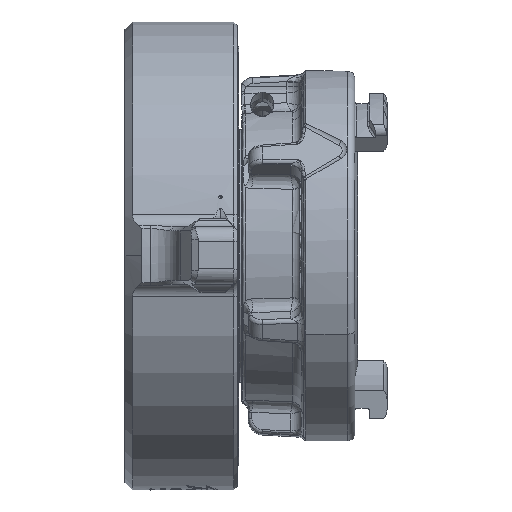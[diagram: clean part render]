
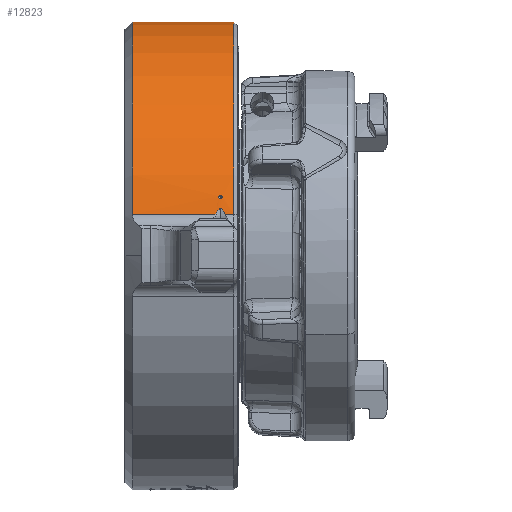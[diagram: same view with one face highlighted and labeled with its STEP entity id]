
A CAD part, top view. The second image highlights one B-rep face of the part: STEP entity #12823.
In plain terms, the highlighted cylindrical face has radius 98.425 mm (diameter 196.85 mm), a partial arc.
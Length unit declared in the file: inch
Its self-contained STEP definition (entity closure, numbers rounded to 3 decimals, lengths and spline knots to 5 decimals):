
#1116 = ORIENTED_EDGE ( 'NONE', *, *, #7501, .F. ) ;
#1117 = ORIENTED_EDGE ( 'NONE', *, *, #7504, .T. ) ;
#1118 = ORIENTED_EDGE ( 'NONE', *, *, #1651, .F. ) ;
#1119 = ORIENTED_EDGE ( 'NONE', *, *, #7506, .T. ) ;
#1120 = ORIENTED_EDGE ( 'NONE', *, *, #7508, .T. ) ;
#1121 = ORIENTED_EDGE ( 'NONE', *, *, #7511, .F. ) ;
#1122 = ORIENTED_EDGE ( 'NONE', *, *, #1656, .F. ) ;
#1123 = ORIENTED_EDGE ( 'NONE', *, *, #6803, .T. ) ;
#1124 = ORIENTED_EDGE ( 'NONE', *, *, #7512, .F. ) ;
#1125 = ORIENTED_EDGE ( 'NONE', *, *, #1652, .F. ) ;
#1651 = EDGE_CURVE ( 'NONE', #13472, #13471, #34920, .T. ) ;
#1652 = EDGE_CURVE ( 'NONE', #13470, #13467, #34921, .T. ) ;
#1656 = EDGE_CURVE ( 'NONE', #13099, #13473, #37184, .T. ) ;
#6113 = EDGE_LOOP ( 'NONE', ( #1116, #1117, #1118 ) ) ;
#6116 = EDGE_LOOP ( 'NONE', ( #1119, #1120, #1121, #1122, #1123, #1124, #1125 ) ) ;
#6803 = EDGE_CURVE ( 'NONE', #13099, #12883, #28941, .T. ) ;
#7501 = EDGE_CURVE ( 'NONE', #13331, #13472, #53212, .T. ) ;
#7504 = EDGE_CURVE ( 'NONE', #13331, #13471, #29216, .T. ) ;
#7506 = EDGE_CURVE ( 'NONE', #13470, #12541, #29220, .T. ) ;
#7508 = EDGE_CURVE ( 'NONE', #12541, #13323, #29221, .T. ) ;
#7511 = EDGE_CURVE ( 'NONE', #13473, #13323, #29223, .T. ) ;
#7512 = EDGE_CURVE ( 'NONE', #13467, #12883, #53215, .T. ) ;
#12541 = VERTEX_POINT ( 'NONE', #19680 ) ;
#12823 = ADVANCED_FACE ( 'NONE', ( #29365, #29370 ), #29372, .T. ) ;
#12883 = VERTEX_POINT ( 'NONE', #20174 ) ;
#13099 = VERTEX_POINT ( 'NONE', #20316 ) ;
#13323 = VERTEX_POINT ( 'NONE', #20440 ) ;
#13331 = VERTEX_POINT ( 'NONE', #20448 ) ;
#13467 = VERTEX_POINT ( 'NONE', #20584 ) ;
#13470 = VERTEX_POINT ( 'NONE', #20587 ) ;
#13471 = VERTEX_POINT ( 'NONE', #20588 ) ;
#13472 = VERTEX_POINT ( 'NONE', #20589 ) ;
#13473 = VERTEX_POINT ( 'NONE', #20590 ) ;
#19680 = CARTESIAN_POINT ( 'NONE',  ( 1.8005, 0.68106, 3.81468 ) ) ;
#20158 = DIRECTION ( 'NONE',  ( 0., 0., -1. ) ) ;
#20163 = DIRECTION ( 'NONE',  ( 1., 0., 0. ) ) ;
#20166 = CARTESIAN_POINT ( 'NONE',  ( -0.05, 0., 0. ) ) ;
#20174 = CARTESIAN_POINT ( 'NONE',  ( 1.50767, 0.68106, 3.81468 ) ) ;
#20316 = CARTESIAN_POINT ( 'NONE',  ( 0.125, 0.68106, 3.81468 ) ) ;
#20440 = CARTESIAN_POINT ( 'NONE',  ( 1.8005, 0.68106, -3.81468 ) ) ;
#20448 = CARTESIAN_POINT ( 'NONE',  ( 1.54727, 0.98602, 3.74745 ) ) ;
#20584 = CARTESIAN_POINT ( 'NONE',  ( 1.583, 0.78607, 3.79443 ) ) ;
#20587 = CARTESIAN_POINT ( 'NONE',  ( 1.65833, 0.68106, 3.81468 ) ) ;
#20588 = CARTESIAN_POINT ( 'NONE',  ( 1.61873, 0.98602, 3.74745 ) ) ;
#20589 = CARTESIAN_POINT ( 'NONE',  ( 1.583, 0.93955, 3.75937 ) ) ;
#20590 = CARTESIAN_POINT ( 'NONE',  ( 0.125, 0.68106, -3.81468 ) ) ;
#24759 = CARTESIAN_POINT ( 'NONE',  ( 1.54727, 0.98602, 3.74745 ) ) ;
#24763 = CARTESIAN_POINT ( 'NONE',  ( -0.05, 0.68106, 3.81468 ) ) ;
#24767 = CARTESIAN_POINT ( 'NONE',  ( 1.55075, 0.9765, 3.74996 ) ) ;
#24768 = DIRECTION ( 'NONE',  ( 1., 0., 0. ) ) ;
#24772 = CARTESIAN_POINT ( 'NONE',  ( -0.05, 0.98602, 3.74745 ) ) ;
#24773 = CARTESIAN_POINT ( 'NONE',  ( 1.5548, 0.96722, 3.75236 ) ) ;
#24774 = CARTESIAN_POINT ( 'NONE',  ( 1.56281, 0.95415, 3.7557 ) ) ;
#24775 = CARTESIAN_POINT ( 'NONE',  ( 1.56579, 0.94993, 3.75676 ) ) ;
#24776 = CARTESIAN_POINT ( 'NONE',  ( 1.57125, 0.94454, 3.75812 ) ) ;
#24777 = CARTESIAN_POINT ( 'NONE',  ( 1.57327, 0.94287, 3.75854 ) ) ;
#24778 = CARTESIAN_POINT ( 'NONE',  ( 1.57782, 0.94036, 3.75917 ) ) ;
#24779 = CARTESIAN_POINT ( 'NONE',  ( 1.58038, 0.93955, 3.75937 ) ) ;
#24780 = CARTESIAN_POINT ( 'NONE',  ( 1.583, 0.93955, 3.75937 ) ) ;
#24781 = CARTESIAN_POINT ( 'NONE',  ( -0.05, 0.68106, -3.81468 ) ) ;
#24782 = DIRECTION ( 'NONE',  ( 1., 0., 0. ) ) ;
#24783 = DIRECTION ( 'NONE',  ( 1., 0., 0. ) ) ;
#24784 = CARTESIAN_POINT ( 'NONE',  ( 1.583, 0.78607, 3.79443 ) ) ;
#24785 = CARTESIAN_POINT ( 'NONE',  ( 1.58016, 0.78607, 3.79443 ) ) ;
#24786 = CARTESIAN_POINT ( 'NONE',  ( 1.8005, 0., 0. ) ) ;
#24787 = DIRECTION ( 'NONE',  ( -1., 0., 0. ) ) ;
#24788 = DIRECTION ( 'NONE',  ( 0., 0., 1. ) ) ;
#24791 = CARTESIAN_POINT ( 'NONE',  ( 1.57733, 0.78537, 3.79458 ) ) ;
#24792 = CARTESIAN_POINT ( 'NONE',  ( 1.57218, 0.78309, 3.79505 ) ) ;
#24793 = CARTESIAN_POINT ( 'NONE',  ( 1.56978, 0.78152, 3.79537 ) ) ;
#24794 = CARTESIAN_POINT ( 'NONE',  ( 1.56318, 0.77631, 3.79644 ) ) ;
#24795 = CARTESIAN_POINT ( 'NONE',  ( 1.55943, 0.77218, 3.79729 ) ) ;
#24796 = CARTESIAN_POINT ( 'NONE',  ( 1.54889, 0.75915, 3.79992 ) ) ;
#24797 = CARTESIAN_POINT ( 'NONE',  ( 1.54302, 0.74981, 3.80178 ) ) ;
#24798 = CARTESIAN_POINT ( 'NONE',  ( 1.52634, 0.72123, 3.80734 ) ) ;
#24799 = CARTESIAN_POINT ( 'NONE',  ( 1.51669, 0.70129, 3.81107 ) ) ;
#24800 = CARTESIAN_POINT ( 'NONE',  ( 1.50767, 0.68106, 3.81468 ) ) ;
#28941 = LINE ( 'NONE', #30434, #28942 ) ;
#28942 = VECTOR ( 'NONE', #30454, 39.37008 ) ;
#29216 = LINE ( 'NONE', #24772, #29219 ) ;
#29219 = VECTOR ( 'NONE', #24782, 39.37008 ) ;
#29220 = LINE ( 'NONE', #24763, #29222 ) ;
#29221 = CIRCLE ( 'NONE', #31628, 3.875 ) ;
#29222 = VECTOR ( 'NONE', #24783, 39.37008 ) ;
#29223 = LINE ( 'NONE', #24781, #29225 ) ;
#29225 = VECTOR ( 'NONE', #24768, 39.37008 ) ;
#29365 = FACE_BOUND ( 'NONE', #6113, .T. ) ;
#29370 = FACE_OUTER_BOUND ( 'NONE', #6116, .T. ) ;
#29372 = CYLINDRICAL_SURFACE ( 'NONE', #31714, 3.875 ) ;
#30434 = CARTESIAN_POINT ( 'NONE',  ( -0.05, 0.68106, 3.81468 ) ) ;
#30454 = DIRECTION ( 'NONE',  ( 1., 0., 0. ) ) ;
#31349 = AXIS2_PLACEMENT_3D ( 'NONE', #32221, #32222, #32223 ) ;
#31628 = AXIS2_PLACEMENT_3D ( 'NONE', #24786, #24787, #24788 ) ;
#31714 = AXIS2_PLACEMENT_3D ( 'NONE', #20166, #20163, #20158 ) ;
#32165 = CARTESIAN_POINT ( 'NONE',  ( 1.64933, 0.70125, 3.81108 ) ) ;
#32177 = CARTESIAN_POINT ( 'NONE',  ( 1.58823, 0.94038, 3.75916 ) ) ;
#32190 = CARTESIAN_POINT ( 'NONE',  ( 1.58563, 0.93955, 3.75937 ) ) ;
#32191 = CARTESIAN_POINT ( 'NONE',  ( 1.583, 0.93955, 3.75937 ) ) ;
#32192 = CARTESIAN_POINT ( 'NONE',  ( 1.59277, 0.9429, 3.75853 ) ) ;
#32193 = CARTESIAN_POINT ( 'NONE',  ( 1.5948, 0.94458, 3.75811 ) ) ;
#32194 = CARTESIAN_POINT ( 'NONE',  ( 1.60028, 0.95001, 3.75674 ) ) ;
#32195 = CARTESIAN_POINT ( 'NONE',  ( 1.60325, 0.95424, 3.75567 ) ) ;
#32196 = CARTESIAN_POINT ( 'NONE',  ( 1.61121, 0.96726, 3.75235 ) ) ;
#32197 = CARTESIAN_POINT ( 'NONE',  ( 1.61526, 0.97651, 3.74995 ) ) ;
#32198 = CARTESIAN_POINT ( 'NONE',  ( 1.61873, 0.98602, 3.74745 ) ) ;
#32200 = CARTESIAN_POINT ( 'NONE',  ( 1.65833, 0.68106, 3.81468 ) ) ;
#32201 = CARTESIAN_POINT ( 'NONE',  ( 1.63974, 0.72106, 3.80737 ) ) ;
#32202 = CARTESIAN_POINT ( 'NONE',  ( 1.62317, 0.74951, 3.80184 ) ) ;
#32203 = CARTESIAN_POINT ( 'NONE',  ( 1.61733, 0.75881, 3.79999 ) ) ;
#32204 = CARTESIAN_POINT ( 'NONE',  ( 1.6069, 0.7718, 3.79736 ) ) ;
#32205 = CARTESIAN_POINT ( 'NONE',  ( 1.60307, 0.77607, 3.79649 ) ) ;
#32206 = CARTESIAN_POINT ( 'NONE',  ( 1.59642, 0.78138, 3.7954 ) ) ;
#32207 = CARTESIAN_POINT ( 'NONE',  ( 1.59406, 0.78296, 3.79508 ) ) ;
#32208 = CARTESIAN_POINT ( 'NONE',  ( 1.58877, 0.78535, 3.79458 ) ) ;
#32209 = CARTESIAN_POINT ( 'NONE',  ( 1.58589, 0.78607, 3.79443 ) ) ;
#32210 = CARTESIAN_POINT ( 'NONE',  ( 1.583, 0.78607, 3.79443 ) ) ;
#32221 = CARTESIAN_POINT ( 'NONE',  ( 0.125, 0., 0. ) ) ;
#32222 = DIRECTION ( 'NONE',  ( -1., 0., 0. ) ) ;
#32223 = DIRECTION ( 'NONE',  ( 0., 0., -1. ) ) ;
#34920 = B_SPLINE_CURVE_WITH_KNOTS ( 'NONE', 3,
 ( #32191, #32190, #32177, #32192, #32193, #32194, #32195, #32196, #32197, #32198 ),
 .UNSPECIFIED., .F., .F.,
 ( 4, 2, 2, 2, 4 ),
 ( 0.00159, 0.00178, 0.00198, 0.00238, 0.00318 ),
 .UNSPECIFIED. ) ;
#34921 = B_SPLINE_CURVE_WITH_KNOTS ( 'NONE', 3,
 ( #32200, #32165, #32201, #32202, #32203, #32204, #32205, #32206, #32207, #32208, #32209, #32210 ),
 .UNSPECIFIED., .F., .F.,
 ( 4, 2, 2, 2, 2, 4 ),
 ( 0., 0.0017, 0.00254, 0.00297, 0.00318, 0.00339 ),
 .UNSPECIFIED. ) ;
#37184 = CIRCLE ( 'NONE', #31349, 3.875 ) ;
#53212 = B_SPLINE_CURVE_WITH_KNOTS ( 'NONE', 3,
 ( #24759, #24767, #24773, #24774, #24775, #24776, #24777, #24778, #24779, #24780 ),
 .UNSPECIFIED., .F., .F.,
 ( 4, 2, 2, 2, 4 ),
 ( 0., 0.00079, 0.00119, 0.00139, 0.00159 ),
 .UNSPECIFIED. ) ;
#53215 = B_SPLINE_CURVE_WITH_KNOTS ( 'NONE', 3,
 ( #24784, #24785, #24791, #24792, #24793, #24794, #24795, #24796, #24797, #24798, #24799, #24800 ),
 .UNSPECIFIED., .F., .F.,
 ( 4, 2, 2, 2, 2, 4 ),
 ( 0.00339, 0.0036, 0.00381, 0.00422, 0.00506, 0.00672 ),
 .UNSPECIFIED. ) ;
